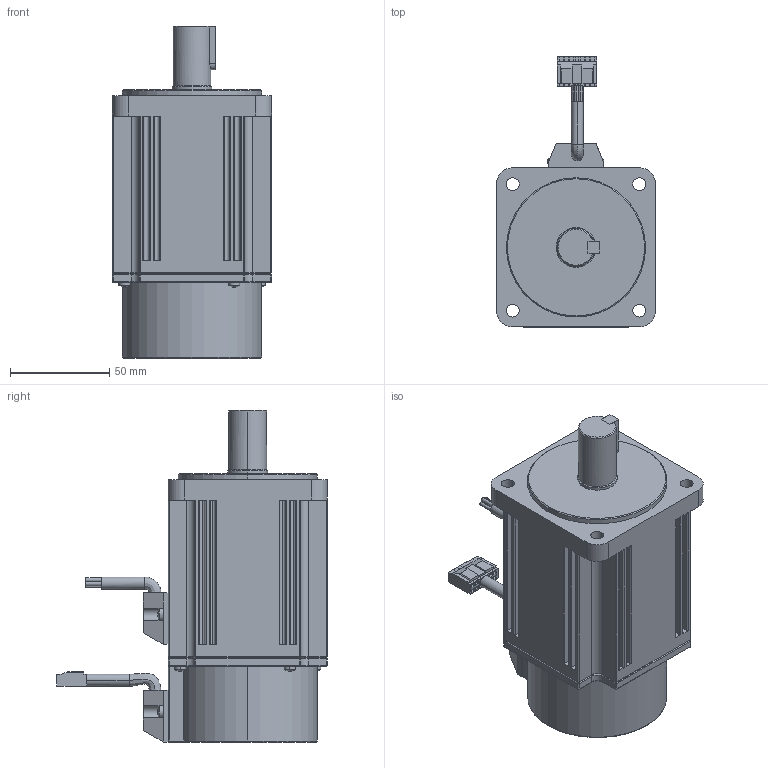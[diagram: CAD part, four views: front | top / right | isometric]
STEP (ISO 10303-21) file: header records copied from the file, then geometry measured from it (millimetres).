
FILE_DESCRIPTION (( 'STEP AP203' ), '1' );
FILE_NAME ('SE080AS-01.STEP', '2017-01-24T02:10:04', ( 'dell' ), ( 'Microsoft' ), 'SwSTEP 2.0', 'SolidWorks 2016', '' );
FILE_SCHEMA (( 'CONFIG_CONTROL_DESIGN' ));
Length unit declared in the file: millimetre
Products named in the file (9): 竘堤盄1; 竘堤盄2; cross recessed pan head screws gb_GB_CROSS_SCREWS_TYPE1 M3X6-6  H type-N; cross recessed small pan head screws gb_GB_CROSS_SCREWS_TYPE3 M4X5-5-N; SE080AS100儂旯; 諉脣璃; SE080AS-01; 綴裔; 揤盄輸
Assembly tree (15 placements, depth 2):
  SE080AS-01
    綴裔
    揤盄輸  x2
    竘堤盄1
    竘堤盄2
    cross recessed pan head screws gb_GB_CROSS_SCREWS_TYPE1 M3X6-6  H type-N  x4
    cross recessed small pan head screws gb_GB_CROSS_SCREWS_TYPE3 M4X5-5-N  x4
    SE080AS100儂旯
    諉脣璃
Bounding box: 80 x 136.03 x 167 mm (x, y, z)
Volume: 706842.1 mm3; surface area: 95142.9 mm2
Topology: 16 solids, 16 shells, 858 faces, 2148 edges, 1371 vertices
Faces by surface type: plane 514, cylinder 273, sphere 34, cone 16, torus 13, bspline 8
Entity records: 21579 total; most frequent: CARTESIAN_POINT 4008, DIRECTION 3480, ORIENTED_EDGE 3320, EDGE_CURVE 1660, AXIS2_PLACEMENT_3D 1171, VECTOR 1138, LINE 1138, VERTEX_POINT 1065
